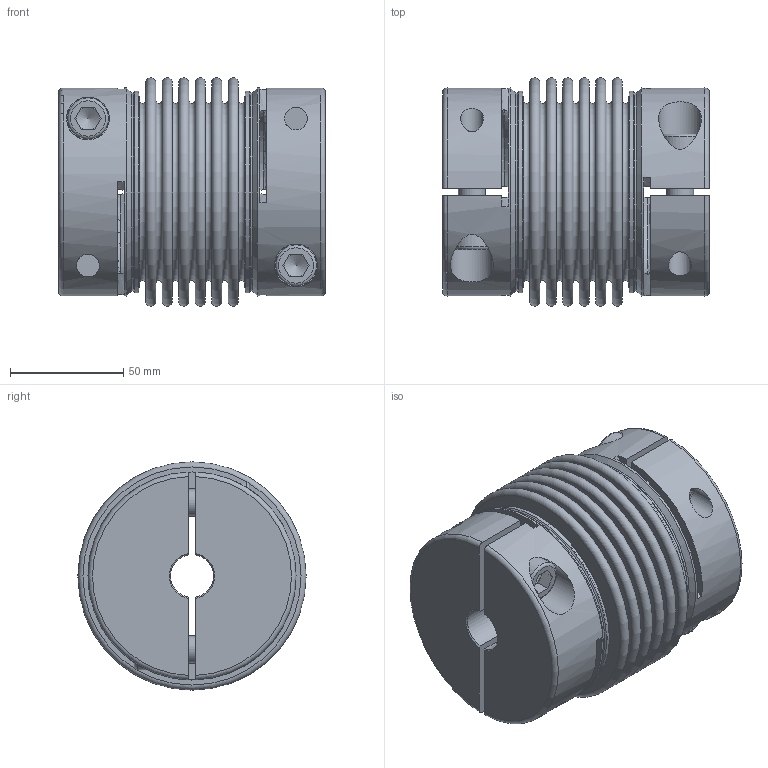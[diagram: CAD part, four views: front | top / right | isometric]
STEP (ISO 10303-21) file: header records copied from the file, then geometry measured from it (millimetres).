
FILE_DESCRIPTION(/* description */ ('Unknown','CAx-IF Rec.Pracs.---Representation and Presentation of Product Manufacturing Information (PMI)---4.0---2014-10-13','CAx-IF Rec.Pracs.---3D Tessellated Geometry---0.4---2014-09-14','2;1'),/* implementation_level */ '2;1');
FILE_NAME(/* name */ 'KG-HS 400-6W',/* time_stamp */ '2022-11-25T11:54:08+01:00',/* author */ ('Unknown'),/* organization */ ('Unknown'),/* preprocessor_version */ 'ST-DEVELOPER v18.102',/* originating_system */ 'Solid Edge',/* authorisation */ 'Unknown');
FILE_SCHEMA (('AP242_MANAGED_MODEL_BASED_3D_ENGINEERING_MIM_LF { 1 0 10303 442 1 1 4 }'));
Length unit declared in the file: millimetre
Products named in the file (1): 04824571
Bounding box: 118.01 x 101 x 101 mm (x, y, z)
Volume: 377214.7 mm3; surface area: 170644.6 mm2
Topology: 1 solids, 1 shells, 230 faces, 512 edges, 324 vertices
Faces by surface type: plane 118, cylinder 50, torus 42, cone 20
Full cylindrical faces by diameter (mm): 10.106 x8, 12 x4, 12.5 x4, 18 x4, 19 x4, 88 x2, 89 x2, 92 x2
Entity records: 8172 total; most frequent: CARTESIAN_POINT 1770, DIRECTION 1040, ORIENTED_EDGE 824, AXIS2_PLACEMENT_3D 444, EDGE_CURVE 412, FACE_BOUND 360, EDGE_LOOP 356, VERTEX_POINT 304
